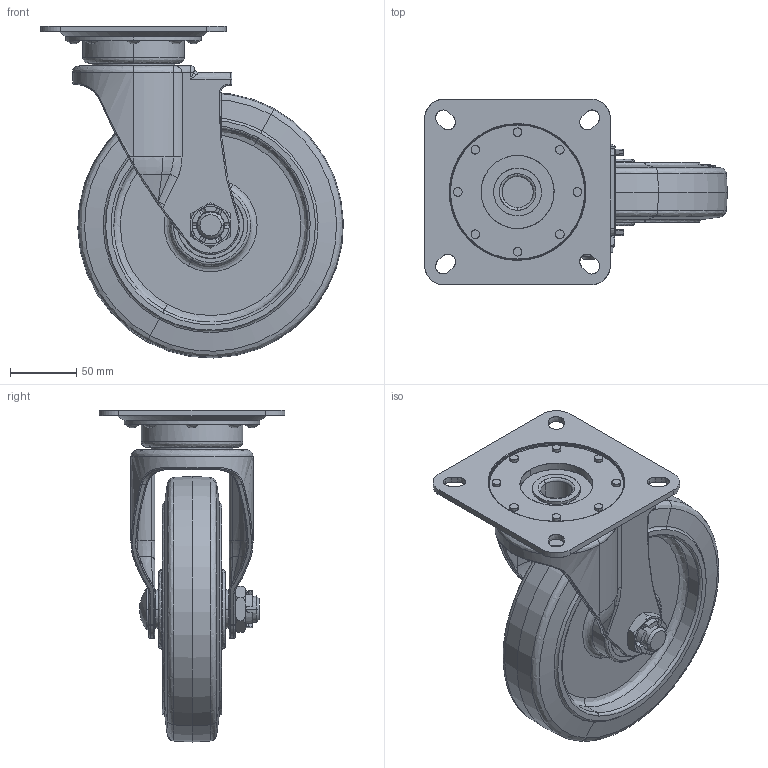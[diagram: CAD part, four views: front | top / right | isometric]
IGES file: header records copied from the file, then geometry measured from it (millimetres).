
Start section: START RECORD GO HERE.
Global section: file name: TRS-200AWJ.igs; native system: DASSAULT SYSTEMES CATIA Version 5-6 Release 2012 - www.3ds.com; preprocessor: V5-6R2012_5.22.4.28.09-04-2013.16.24; author: toshihiro.oyama; organization: ICC; date: 20140714.085554; units: millimetre
Bounding box: 227.97 x 140 x 249.97 mm (x, y, z)
Surface area: 355296.2 mm2 (no closed solid volume)
Topology: 0 solids, 0 shells, 1001 faces, 4919 edges, 4675 vertices
Faces by surface type: revolution 420, plane 338, bspline 231, extrusion 12
